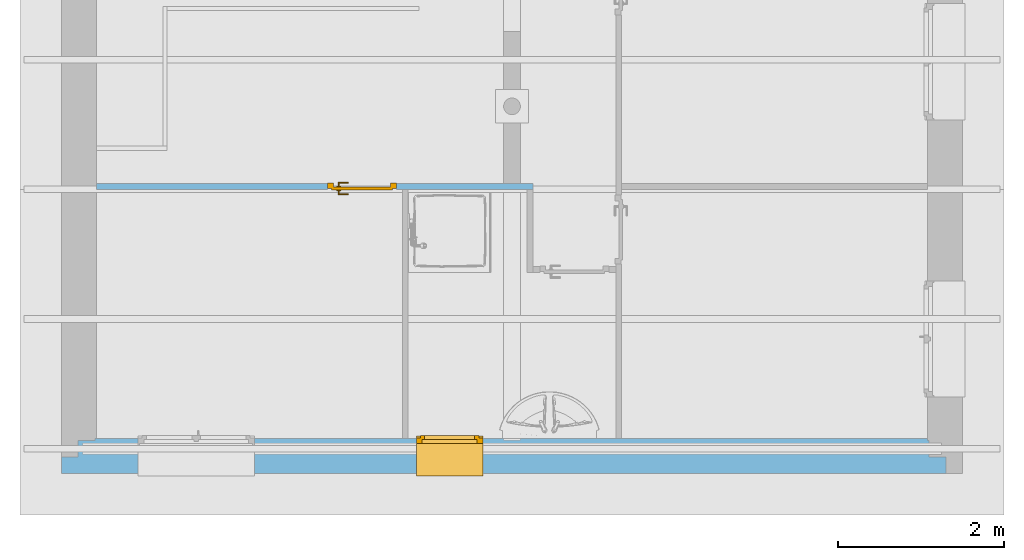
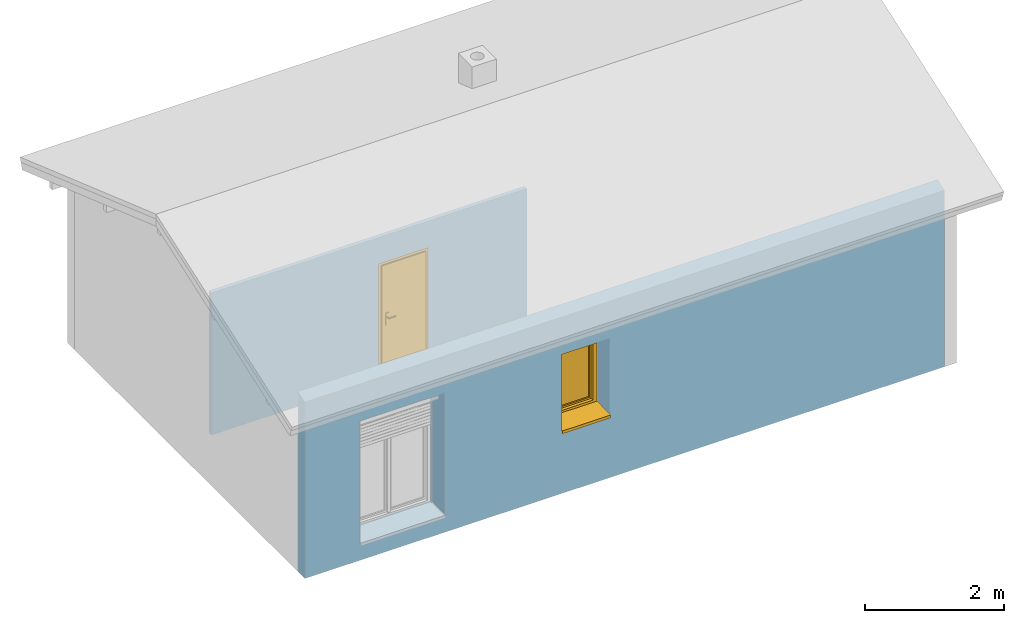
# One storey, part 4 of 7: 1 door, 1 window, 3 openings, plus 2 elements that do not belong to this part.
"""IFC4 building model written with IfcOpenShell, lengths in metres."""

from ifc_helpers import new_model, entity, si_unit, converted_unit, frame, frame_2d, origin, origin_with_axes, place, context, subcontext, project, spatial, polyline, rectangle, outline, extrude, clip, bounded_halfspace, closed_shell, open_shell, faceted_brep, surface_model, source, transform, mapped, material, layer, layer_set, layer_usage, type_object, element, fill, save


model = new_model("IFC4")

# Units and contexts
model_context = context("Model", 3, precision=1e-05, world=origin())
body_context = subcontext(model_context, "Body", "Model", "MODEL_VIEW")
ifc_project = project(units=[si_unit("LENGTHUNIT", "METRE"), si_unit("AREAUNIT", "SQUARE_METRE"), si_unit("VOLUMEUNIT", "CUBIC_METRE"), si_unit("MASSUNIT", "GRAM", prefix="KILO"), converted_unit("PLANEANGLEUNIT", "DEGREE", entity("IfcPlaneAngleMeasure", 0.0174532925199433), si_unit("PLANEANGLEUNIT", "RADIAN"), dimensions=[0, 0, 0, 0, 0, 0, 0])], contexts=[model_context])

# Building, storey
building_placement = place(None, origin())
building = spatial("IfcBuilding", under=ifc_project, at=building_placement, Name="Projet de Construction", CompositionType="ELEMENT")
storey_placement = place(building_placement, frame((0.0, 0.0, 2.8)))
storey = spatial("IfcBuildingStorey", under=building, at=storey_placement, Name="R+1", CompositionType="ELEMENT", Elevation=2.8)

# Wall, openings, window
ifc_material_1 = material()
ifc_layer_1 = layer(ifc_material_1, 0.2)
ifc_material_2 = material()
ifc_layer_2 = layer(ifc_material_2, 0.2)
ifc_material_3 = material()
ifc_layer_3 = layer(ifc_material_3, 0.0200000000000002)
ifc_layer_set_1 = layer_set([ifc_layer_1, ifc_layer_2, ifc_layer_3])
ifc_layer_usage_1 = layer_usage(ifc_layer_set_1, "AXIS2", "POSITIVE", 0.0)
wall_1_placement = place(storey_placement, frame((-7.2859375, 1.29979166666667, 0.0), z_axis=(0.0, 0.0, 1.0), x_axis=(1.0, -1.28218238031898e-16, 0.0)))
wall_1 = element("IfcWall", 1, at=wall_1_placement, inside=storey, material=ifc_layer_usage_1, context=body_context, shape_type="Clipping", body=[
    clip(clip(clip(clip(extrude(outline(polyline([(-1.74920712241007e-31, 1.36424205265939e-15), (10.64, 1.36424205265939e-15), (10.64, 0.200000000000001), (10.44, 0.200000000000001), (10.44, 0.400000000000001), (10.42, 0.400000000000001), (10.42, 0.420000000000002), (0.4, 0.420000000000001), (0.4, 0.400000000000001), (0.2, 0.400000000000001), (0.2, 0.200000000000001), (-2.56436476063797e-17, 0.200000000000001), (-1.74920712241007e-31, 1.36424205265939e-15)])), frame((1.74920712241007e-31, -1.36424205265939e-15, 0.0), z_axis=(0.0, 0.0, 1.0), x_axis=(1.0, 0.0, 0.0)), (0.0, 0.0, 1.0), 3.17000000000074), bounded_halfspace(frame((5.365, 0.355, 0.2), z_axis=(0.0, 0.0, 1.0), x_axis=(-1.28218238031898e-16, 1.0, 0.0)), True, origin_with_axes(), polyline([(10.42, 0.4), (10.42, 0.42), (0.4, 0.42), (0.399999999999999, 0.4), (0.2, 0.4), (0.2, 0.2), (10.44, 0.2), (10.44, 0.4), (10.42, 0.4)]))), bounded_halfspace(frame((5.32, 0.1, 3.13500000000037), z_axis=(-8.06799036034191e-17, 0.330350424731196, -0.943858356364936), x_axis=(-1.0, 0.0, 8.54788253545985e-17)), True, origin_with_axes(), polyline([(10.64, 0.2), (-2.56436476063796e-17, 0.2), (0.0, 0.0), (10.64, 0.0), (10.64, 0.2)]))), bounded_halfspace(frame((5.32, 0.3, 2.97000000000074), z_axis=(0.0, 0.0, -1.0), x_axis=(1.0, -5.00852492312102e-18, 0.0)), True, origin_with_axes(), polyline([(0.2, 0.2), (10.44, 0.2), (10.44, 0.4), (0.2, 0.4), (0.2, 0.2)]))), bounded_halfspace(frame((5.41, 0.41, 2.8), z_axis=(0.0, 0.0, -1.0), x_axis=(1.0, -7.93366343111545e-18, 0.0)), True, origin_with_axes(), polyline([(0.4, 0.4), (10.42, 0.4), (10.42, 0.42), (0.4, 0.42), (0.4, 0.4)]))),
])
opening_1_placement = place(wall_1_placement, frame((5.07, 0.199999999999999, 1.1), z_axis=(0.0, -1.0, 0.0), x_axis=(0.0, 0.0, 1.0)))
opening_1 = element("IfcOpeningStandardCase", 2, at=opening_1_placement, cuts=wall_1, Name="Baie de fenêtre", PredefinedType="OPENING", context=body_context, shape_type="SweptSolid", body=[
    extrude(outline(polyline([(0.0, 0.8), (1.35, 0.8), (1.35, 0.0), (0.0, 0.0), (0.0, 0.8)])), origin_with_axes(), (0.0, 0.0, 1.0), 0.2),
    extrude(outline(polyline([(0.0, 0.8), (1.35, 0.8), (1.35, 0.0), (0.0, 0.0), (0.0, 0.8)])), frame((0.0, 5.6843418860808e-17, -0.2), z_axis=(0.0, 0.0, 1.0), x_axis=(1.0, 0.0, 0.0)), (0.0, 0.0, 1.0), 0.2),
    extrude(outline(polyline([(0.0, 0.8), (1.35, 0.8), (1.35, 0.0), (0.0, 0.0), (0.0, 0.8)])), frame((0.0, 6.25277607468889e-17, -0.22), z_axis=(0.0, 0.0, 1.0), x_axis=(1.0, 0.0, 0.0)), (0.0, 0.0, 1.0), 0.0200000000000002),
])
opening_2_placement = place(wall_1_placement, frame((2.32, 0.199999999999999, 0.3), z_axis=(0.0, -1.0, 0.0), x_axis=(0.0, 0.0, 1.0)))
element("IfcOpeningStandardCase", 3, at=opening_2_placement, cuts=wall_1, Name="Baie de porte", PredefinedType="OPENING", context=body_context, shape_type="SweptSolid", body=[
    extrude(outline(polyline([(0.0, 1.4), (2.15, 1.4), (2.15, 0.0), (0.0, 0.0), (0.0, 1.4)])), origin_with_axes(), (0.0, 0.0, 1.0), 0.2),
    extrude(outline(polyline([(0.0, 1.4), (2.15, 1.4), (2.15, 0.0), (0.0, 0.0), (0.0, 1.4)])), frame((0.0, 3.24819536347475e-17, -0.2), z_axis=(0.0, 0.0, 1.0), x_axis=(1.0, 0.0, 0.0)), (0.0, 0.0, 1.0), 0.2),
    extrude(outline(polyline([(0.0, 1.4), (2.15, 1.4), (2.15, 0.0), (0.0, 0.0), (0.0, 1.4)])), frame((0.0, 3.57301489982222e-17, -0.22), z_axis=(0.0, 0.0, 1.0), x_axis=(1.0, 0.0, 0.0)), (0.0, 0.0, 1.0), 0.02),
])
ifc_material_4 = material()
window_type = type_object("IfcWindowType", Name="1 vantail blanc", ParameterTakesPrecedence=False, PartitioningType="SINGLE_PANEL", PredefinedType="WINDOW")
shared_shape_1 = source(origin_with_axes(), body_context, "Body", "SurfaceModel", [
    surface_model("IfcShellBasedSurfaceModel", [(0.8, -0.37, 0.0), (0.8, -0.37, -0.03), (0.8, -0.39, -0.03), (0.8, -0.39, 0.02), (0.8, 0.0, 0.03), (0.8, 0.0, 0.0), (0.0, 2.27373675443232e-16, 0.0), (0.0, 2.27373675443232e-16, 0.03), (0.0, -0.39, 0.02), (0.0, -0.39, -0.03), (0.0, -0.37, -0.03), (0.0, -0.37, 0.0)], [closed_shell([[[0, 1, 2, 3, 4, 5]], [[6, 7, 8, 9, 10, 11]], [[5, 6, 11, 0]], [[4, 7, 6, 5]], [[3, 8, 7, 4]], [[2, 9, 8, 3]], [[1, 10, 9, 2]], [[0, 11, 10, 1]]], orient=[[False], [False], [False], [False], [False], [False], [False], [False]])]),
    surface_model("IfcShellBasedSurfaceModel", [(0.8, 0.09, 0.0), (0.8, 0.04, 0.0), (0.8, 0.04, 0.03), (0.8, 0.09, 0.03), (0.0, 0.0400000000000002, 0.0), (0.0, 0.0900000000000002, 0.0), (0.0, 0.0900000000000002, 0.03), (0.0, 0.0400000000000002, 0.03)], [closed_shell([[[0, 1, 2, 3]], [[4, 5, 6, 7]], [[1, 0, 5, 4]], [[2, 1, 4, 7]], [[3, 2, 7, 6]], [[0, 3, 6, 5]]], orient=[[False], [False], [False], [False], [False], [False]])]),
    surface_model("IfcShellBasedSurfaceModel", [(0.8, 0.0700000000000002, 1.35), (0.73, 0.0700000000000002, 1.35), (0.73, 0.07, 0.0), (0.8, 0.07, 0.0), (0.8, 0.0, 0.0), (0.73, 0.0, 0.0), (0.73, 2.27373675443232e-16, 1.35), (0.8, 2.27373675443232e-16, 1.35)], [closed_shell([[[0, 1, 2, 3]], [[4, 5, 6, 7]], [[3, 4, 7, 0]], [[2, 5, 4, 3]], [[1, 6, 5, 2]], [[0, 7, 6, 1]]], orient=[[False], [False], [False], [False], [False], [False]])]),
    surface_model("IfcShellBasedSurfaceModel", [(0.07, 0.0700000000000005, 1.35), (0.0, 0.0700000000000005, 1.35), (0.0, 0.0700000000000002, 0.0), (0.07, 0.0700000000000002, 0.0), (0.07, 2.27373675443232e-16, 0.0), (0.0, 2.27373675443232e-16, 0.0), (0.0, 4.54747350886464e-16, 1.35), (0.07, 4.54747350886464e-16, 1.35)], [closed_shell([[[0, 1, 2, 3]], [[4, 5, 6, 7]], [[3, 4, 7, 0]], [[2, 5, 4, 3]], [[1, 6, 5, 2]], [[0, 7, 6, 1]]], orient=[[False], [False], [False], [False], [False], [False]])]),
    surface_model("IfcShellBasedSurfaceModel", [(0.73, 0.07, 0.07), (0.07, 0.0700000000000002, 0.07), (0.07, 0.0700000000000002, 0.0), (0.73, 0.07, 0.0), (0.73, 0.0, 0.0), (0.07, 2.27373675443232e-16, 0.0), (0.07, 2.27373675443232e-16, 0.07), (0.73, 0.0, 0.07)], [closed_shell([[[0, 1, 2, 3]], [[4, 5, 6, 7]], [[3, 4, 7, 0]], [[2, 5, 4, 3]], [[1, 6, 5, 2]], [[0, 7, 6, 1]]], orient=[[False], [False], [False], [False], [False], [False]])]),
    surface_model("IfcShellBasedSurfaceModel", [(0.73, 0.0700000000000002, 1.35), (0.07, 0.0700000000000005, 1.35), (0.07, 0.0700000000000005, 1.28), (0.73, 0.0700000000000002, 1.28), (0.73, 2.27373675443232e-16, 1.28), (0.07, 2.27373675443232e-16, 1.28), (0.07, 4.54747350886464e-16, 1.35), (0.73, 2.27373675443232e-16, 1.35)], [closed_shell([[[0, 1, 2, 3]], [[4, 5, 6, 7]], [[3, 4, 7, 0]], [[2, 5, 4, 3]], [[1, 6, 5, 2]], [[0, 7, 6, 1]]], orient=[[False], [False], [False], [False], [False], [False]])]),
    surface_model("IfcShellBasedSurfaceModel", [(0.75, 0.1, 1.3), (0.7, 0.1, 1.3), (0.7, 0.1, 0.05), (0.75, 0.1, 0.05), (0.75, 0.05, 0.05), (0.7, 0.05, 0.05), (0.7, 0.0500000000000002, 1.3), (0.75, 0.0500000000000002, 1.3)], [closed_shell([[[0, 1, 2, 3]], [[4, 5, 6, 7]], [[3, 4, 7, 0]], [[2, 5, 4, 3]], [[1, 6, 5, 2]], [[0, 7, 6, 1]]], orient=[[False], [False], [False], [False], [False], [False]])]),
    surface_model("IfcShellBasedSurfaceModel", [(0.1, 0.1, 1.3), (0.05, 0.1, 1.3), (0.05, 0.1, 0.05), (0.1, 0.1, 0.05), (0.1, 0.0500000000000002, 0.05), (0.05, 0.0500000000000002, 0.05), (0.05, 0.0500000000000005, 1.3), (0.1, 0.0500000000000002, 1.3)], [closed_shell([[[0, 1, 2, 3]], [[4, 5, 6, 7]], [[3, 4, 7, 0]], [[2, 5, 4, 3]], [[1, 6, 5, 2]], [[0, 7, 6, 1]]], orient=[[False], [False], [False], [False], [False], [False]])]),
    surface_model("IfcShellBasedSurfaceModel", [(0.7, 0.1, 0.1), (0.1, 0.1, 0.1), (0.1, 0.1, 0.05), (0.7, 0.1, 0.05), (0.7, 0.05, 0.05), (0.1, 0.0500000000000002, 0.05), (0.1, 0.0500000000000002, 0.1), (0.7, 0.05, 0.1)], [closed_shell([[[0, 1, 2, 3]], [[4, 5, 6, 7]], [[3, 4, 7, 0]], [[2, 5, 4, 3]], [[1, 6, 5, 2]], [[0, 7, 6, 1]]], orient=[[False], [False], [False], [False], [False], [False]])]),
    surface_model("IfcShellBasedSurfaceModel", [(0.7, 0.1, 1.3), (0.1, 0.1, 1.3), (0.1, 0.1, 1.25), (0.7, 0.1, 1.25), (0.7, 0.0500000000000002, 1.25), (0.1, 0.0500000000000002, 1.25), (0.1, 0.0500000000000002, 1.3), (0.7, 0.0500000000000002, 1.3)], [closed_shell([[[0, 1, 2, 3]], [[4, 5, 6, 7]], [[3, 4, 7, 0]], [[2, 5, 4, 3]], [[1, 6, 5, 2]], [[0, 7, 6, 1]]], orient=[[False], [False], [False], [False], [False], [False]])]),
    surface_model("IfcShellBasedSurfaceModel", [(0.7375, 0.1, 0.67), (0.7375, 0.1, 0.63), (0.7125, 0.1, 0.63), (0.7125, 0.1, 0.67), (0.7375, 0.11, 0.63), (0.7375, 0.11, 0.67), (0.7125, 0.11, 0.67), (0.7125, 0.11, 0.63)], [closed_shell([[[0, 1, 2, 3]], [[4, 5, 6, 7]], [[1, 0, 5, 4]], [[2, 1, 4, 7]], [[3, 2, 7, 6]], [[0, 3, 6, 5]]], orient=[[False], [False], [False], [False], [False], [False]])]),
    surface_model("IfcShellBasedSurfaceModel", [(0.715, 0.11, 0.65), (0.716339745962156, 0.11, 0.655), (0.72, 0.11, 0.658660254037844), (0.725, 0.11, 0.66), (0.73, 0.11, 0.658660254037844), (0.733660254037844, 0.11, 0.655), (0.735, 0.11, 0.65), (0.733660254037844, 0.11, 0.645), (0.73, 0.11, 0.641339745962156), (0.725, 0.11, 0.64), (0.72, 0.11, 0.641339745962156), (0.716339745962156, 0.11, 0.645), (0.715, 0.15, 0.65), (0.716339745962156, 0.155, 0.655), (0.72, 0.158660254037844, 0.658660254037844), (0.725, 0.16, 0.66), (0.73, 0.158660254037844, 0.658660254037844), (0.733660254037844, 0.155, 0.655), (0.735, 0.15, 0.65), (0.733660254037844, 0.145, 0.645), (0.73, 0.141339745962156, 0.641339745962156), (0.725, 0.14, 0.64), (0.72, 0.141339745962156, 0.641339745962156), (0.716339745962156, 0.145, 0.645), (0.715, 0.15, 0.535), (0.716339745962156, 0.145, 0.535), (0.72, 0.141339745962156, 0.535), (0.725, 0.14, 0.535), (0.73, 0.141339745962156, 0.535), (0.733660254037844, 0.145, 0.535), (0.735, 0.15, 0.535), (0.733660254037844, 0.155, 0.535), (0.73, 0.158660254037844, 0.535), (0.725, 0.16, 0.535), (0.72, 0.158660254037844, 0.535), (0.716339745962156, 0.155, 0.535)], [closed_shell([[[0, 1, 2, 3, 4, 5, 6, 7, 8, 9, 10, 11]], [[0, 12, 13, 1]], [[1, 13, 14, 2]], [[2, 14, 15, 3]], [[3, 15, 16, 4]], [[4, 16, 17, 5]], [[5, 17, 18, 6]], [[6, 18, 19, 7]], [[7, 19, 20, 8]], [[8, 20, 21, 9]], [[9, 21, 22, 10]], [[10, 22, 23, 11]], [[11, 23, 12, 0]], [[24, 25, 26, 27, 28, 29, 30, 31, 32, 33, 34, 35]], [[12, 24, 35, 13]], [[13, 35, 34, 14]], [[14, 34, 33, 15]], [[15, 33, 32, 16]], [[16, 32, 31, 17]], [[17, 31, 30, 18]], [[18, 30, 29, 19]], [[19, 29, 28, 20]], [[20, 28, 27, 21]], [[21, 27, 26, 22]], [[22, 26, 25, 23]], [[23, 25, 24, 12]]], orient=[[False], [False], [False], [False], [False], [False], [False], [False], [False], [False], [False], [False], [False], [False], [False], [False], [False], [False], [False], [False], [False], [False], [False], [False], [False], [False]])]),
    surface_model("IfcShellBasedSurfaceModel", [(0.7, 0.075, 0.1), (0.7, 0.0750000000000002, 1.25), (0.1, 0.0750000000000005, 1.25), (0.1, 0.0750000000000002, 0.1)], [open_shell([[[0, 1, 2, 3]]], orient=[[False]])]),
])
window_placement = place(opening_1_placement, frame((0.0, 0.8, -0.16), z_axis=(1.0, 0.0, 0.0), x_axis=(0.0, -1.0, -1.28218238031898e-16)))
window = element("IfcWindow", 4, at=window_placement, inside=storey, type_object=window_type, material=ifc_material_4, Name="1 vantail blanc", OverallHeight=1.35, OverallWidth=0.8, context=body_context, shape_type="MappedRepresentation", body=[
    mapped(shared_shape_1, transform((0.0, 0.0, 0.0), x_axis=(1.0, 0.0, 0.0), y_axis=(0.0, 1.0, 0.0), z_axis=(0.0, 0.0, 1.0), scale=1.0)),
])
fill(opening_1, window)

# Wall, opening, door
ifc_material_5 = material()
ifc_layer_4 = layer(ifc_material_5, 0.07)
ifc_layer_set_2 = layer_set([ifc_layer_4])
ifc_layer_usage_2 = layer_usage(ifc_layer_set_2, "AXIS2", "POSITIVE", 0.0)
wall_2_placement = place(storey_placement, frame((-1.6159375, 4.78979166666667, 0.3), z_axis=(0.0, 0.0, 1.0), x_axis=(-1.0, 0.0, 0.0)))
wall_2 = element("IfcWall", 5, at=wall_2_placement, inside=storey, material=ifc_layer_usage_2, context=body_context, shape_type="SweptSolid", body=[
    extrude(rectangle(XDim=5.25, YDim=0.07, at=frame_2d((2.625, 0.035), x_axis=(1.0, 0.0))), origin_with_axes(), (0.0, 0.0, 1.0), 2.5),
])
opening_3_placement = place(wall_2_placement, frame((1.64, 0.0, 0.0), z_axis=(0.0, 1.0, 0.0), x_axis=(0.0, 0.0, 1.0)))
opening_3 = element("IfcOpeningStandardCase", 6, at=opening_3_placement, cuts=wall_2, Name="Baie de porte", PredefinedType="OPENING", context=body_context, shape_type="SweptSolid", body=[
    extrude(outline(polyline([(0.0, 0.83), (2.04, 0.83), (2.04, 0.0), (0.0, 0.0), (0.0, 0.83)])), origin_with_axes(), (0.0, 0.0, 1.0), 0.07),
])
ifc_material_6 = material()
door_type = type_object("IfcDoorType", Name="1 vantail sol fini, en bois", OperationType="SINGLE_SWING_RIGHT", ParameterTakesPrecedence=False, PredefinedType="DOOR")
shared_shape_2 = source(origin_with_axes(), body_context, "Body", "Brep", [
    faceted_brep([(0.83, 0.0699999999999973, 2.04), (0.76, 0.0699999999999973, 2.04), (0.76, 0.0699999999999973, 0.0), (0.83, 0.0699999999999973, 0.0), (0.83, -2.72848410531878e-15, 0.0), (0.76, -2.72848410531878e-15, 0.0), (0.76, -2.72848410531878e-15, 2.04), (0.83, -2.72848410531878e-15, 2.04)], [[[0, 1, 2, 3]], [[4, 5, 6, 7]], [[3, 4, 7, 0]], [[2, 5, 4, 3]], [[1, 6, 5, 2]], [[0, 7, 6, 1]]], orient=[[False], [False], [False], [False], [False], [False]]),
    faceted_brep([(0.07, 0.0699999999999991, 2.04), (0.0, 0.0699999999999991, 2.04), (0.0, 0.0699999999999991, 0.0), (0.07, 0.0699999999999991, 0.0), (0.07, -9.09494701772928e-16, 0.0), (0.0, -9.09494701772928e-16, 0.0), (0.0, -9.09494701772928e-16, 2.04), (0.07, -9.09494701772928e-16, 2.04)], [[[0, 1, 2, 3]], [[4, 5, 6, 7]], [[3, 4, 7, 0]], [[2, 5, 4, 3]], [[1, 6, 5, 2]], [[0, 7, 6, 1]]], orient=[[False], [False], [False], [False], [False], [False]]),
    faceted_brep([(0.76, 0.0699999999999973, 2.04), (0.07, 0.0699999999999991, 2.04), (0.07, 0.0699999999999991, 1.97), (0.76, 0.0699999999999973, 1.97), (0.76, -2.72848410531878e-15, 1.97), (0.07, -9.09494701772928e-16, 1.97), (0.07, -9.09494701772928e-16, 2.04), (0.76, -2.72848410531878e-15, 2.04)], [[[0, 1, 2, 3]], [[4, 5, 6, 7]], [[3, 4, 7, 0]], [[2, 5, 4, 3]], [[1, 6, 5, 2]], [[0, 7, 6, 1]]], orient=[[False], [False], [False], [False], [False], [False]]),
    faceted_brep([(0.78, 0.0899999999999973, 1.99), (0.05, 0.0899999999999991, 1.99), (0.05, 0.0899999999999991, 0.021), (0.78, 0.0899999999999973, 0.021), (0.78, 0.0499999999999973, 0.021), (0.05, 0.0499999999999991, 0.021), (0.05, 0.0499999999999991, 1.99), (0.78, 0.0499999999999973, 1.99)], [[[0, 1, 2, 3]], [[4, 5, 6, 7]], [[3, 4, 7, 0]], [[2, 5, 4, 3]], [[1, 6, 5, 2]], [[0, 7, 6, 1]]], orient=[[False], [False], [False], [False], [False], [False]]),
    faceted_brep([(0.72, 0.0499999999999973, 1.146), (0.67, 0.0499999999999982, 1.146), (0.67, 0.0499999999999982, 0.931), (0.72, 0.0499999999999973, 0.931), (0.72, 0.0399999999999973, 0.931), (0.67, 0.0399999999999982, 0.931), (0.67, 0.0399999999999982, 1.146), (0.72, 0.0399999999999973, 1.146)], [[[0, 1, 2, 3]], [[4, 5, 6, 7]], [[3, 4, 7, 0]], [[2, 5, 4, 3]], [[1, 6, 5, 2]], [[0, 7, 6, 1]]], orient=[[False], [False], [False], [False], [False], [False]]),
    faceted_brep([(0.695, 0.0399999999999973, 1.081), (0.69, 0.0399999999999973, 1.07966025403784), (0.686339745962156, 0.0399999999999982, 1.076), (0.685, 0.0399999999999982, 1.071), (0.686339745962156, 0.0399999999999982, 1.066), (0.69, 0.0399999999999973, 1.06233974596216), (0.695, 0.0399999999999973, 1.061), (0.7, 0.0399999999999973, 1.06233974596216), (0.703660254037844, 0.0399999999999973, 1.066), (0.705, 0.0399999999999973, 1.071), (0.703660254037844, 0.0399999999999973, 1.076), (0.7, 0.0399999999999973, 1.07966025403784), (0.7, -0.00500000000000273, 1.07966025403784), (0.695, -2.72848410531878e-15, 1.081), (0.703660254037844, -0.00866025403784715, 1.076), (0.705, -0.0100000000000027, 1.071), (0.703660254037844, -0.00866025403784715, 1.066), (0.7, -0.00500000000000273, 1.06233974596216), (0.695, -2.72848410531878e-15, 1.061), (0.69, 0.00499999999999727, 1.06233974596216), (0.686339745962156, 0.00866025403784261, 1.066), (0.685, 0.00999999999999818, 1.071), (0.686339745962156, 0.00866025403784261, 1.076), (0.69, 0.00499999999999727, 1.07966025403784), (0.58, -1.81898940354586e-15, 1.081), (0.58, -0.00500000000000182, 1.07966025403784), (0.58, -0.00866025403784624, 1.076), (0.58, -0.0100000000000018, 1.071), (0.58, -0.00866025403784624, 1.066), (0.58, -0.00500000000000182, 1.06233974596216), (0.58, -1.81898940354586e-15, 1.061), (0.58, 0.00499999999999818, 1.06233974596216), (0.58, 0.00866025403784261, 1.066), (0.58, 0.00999999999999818, 1.071), (0.58, 0.00866025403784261, 1.076), (0.58, 0.00499999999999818, 1.07966025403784)], [[[0, 1, 2, 3, 4, 5, 6, 7, 8, 9, 10, 11]], [[0, 11, 12, 13]], [[11, 10, 14, 12]], [[10, 9, 15, 14]], [[9, 8, 16, 15]], [[8, 7, 17, 16]], [[7, 6, 18, 17]], [[6, 5, 19, 18]], [[5, 4, 20, 19]], [[4, 3, 21, 20]], [[3, 2, 22, 21]], [[2, 1, 23, 22]], [[1, 0, 13, 23]], [[24, 25, 26, 27, 28, 29, 30, 31, 32, 33, 34, 35]], [[13, 12, 25, 24]], [[12, 14, 26, 25]], [[14, 15, 27, 26]], [[15, 16, 28, 27]], [[16, 17, 29, 28]], [[17, 18, 30, 29]], [[18, 19, 31, 30]], [[19, 20, 32, 31]], [[20, 21, 33, 32]], [[21, 22, 34, 33]], [[22, 23, 35, 34]], [[23, 13, 24, 35]]], orient=[[False], [False], [False], [False], [False], [False], [False], [False], [False], [False], [False], [False], [False], [False], [False], [False], [False], [False], [False], [False], [False], [False], [False], [False], [False], [False]]),
    faceted_brep([(0.72, 0.0899999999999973, 1.146), (0.72, 0.0899999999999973, 0.931), (0.67, 0.0899999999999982, 0.931), (0.67, 0.0899999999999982, 1.146), (0.72, 0.0999999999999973, 0.931), (0.72, 0.0999999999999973, 1.146), (0.67, 0.0999999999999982, 1.146), (0.67, 0.0999999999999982, 0.931)], [[[0, 1, 2, 3]], [[4, 5, 6, 7]], [[1, 0, 5, 4]], [[2, 1, 4, 7]], [[3, 2, 7, 6]], [[0, 3, 6, 5]]], orient=[[False], [False], [False], [False], [False], [False]]),
    faceted_brep([(0.695, 0.0999999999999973, 1.081), (0.7, 0.0999999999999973, 1.07966025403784), (0.703660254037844, 0.0999999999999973, 1.076), (0.705, 0.0999999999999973, 1.071), (0.703660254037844, 0.0999999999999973, 1.066), (0.7, 0.0999999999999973, 1.06233974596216), (0.695, 0.0999999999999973, 1.061), (0.69, 0.0999999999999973, 1.06233974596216), (0.686339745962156, 0.0999999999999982, 1.066), (0.685, 0.0999999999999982, 1.071), (0.686339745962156, 0.0999999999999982, 1.076), (0.69, 0.0999999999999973, 1.07966025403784), (0.695000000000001, 0.139999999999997, 1.081), (0.700000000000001, 0.144999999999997, 1.07966025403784), (0.703660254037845, 0.148660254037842, 1.076), (0.705000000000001, 0.149999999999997, 1.071), (0.703660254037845, 0.148660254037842, 1.066), (0.700000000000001, 0.144999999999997, 1.06233974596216), (0.695000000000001, 0.139999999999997, 1.061), (0.690000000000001, 0.134999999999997, 1.06233974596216), (0.686339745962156, 0.131339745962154, 1.066), (0.685, 0.129999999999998, 1.071), (0.686339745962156, 0.131339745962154, 1.076), (0.690000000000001, 0.134999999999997, 1.07966025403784), (0.580000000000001, 0.139999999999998, 1.081), (0.580000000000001, 0.134999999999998, 1.07966025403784), (0.580000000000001, 0.131339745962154, 1.076), (0.58, 0.129999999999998, 1.071), (0.580000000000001, 0.131339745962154, 1.066), (0.580000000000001, 0.134999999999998, 1.06233974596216), (0.580000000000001, 0.139999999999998, 1.061), (0.580000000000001, 0.144999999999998, 1.06233974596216), (0.580000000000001, 0.148660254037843, 1.066), (0.580000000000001, 0.149999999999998, 1.071), (0.580000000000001, 0.148660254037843, 1.076), (0.580000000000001, 0.144999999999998, 1.07966025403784)], [[[0, 1, 2, 3, 4, 5, 6, 7, 8, 9, 10, 11]], [[0, 12, 13, 1]], [[1, 13, 14, 2]], [[2, 14, 15, 3]], [[3, 15, 16, 4]], [[4, 16, 17, 5]], [[5, 17, 18, 6]], [[6, 18, 19, 7]], [[7, 19, 20, 8]], [[8, 20, 21, 9]], [[9, 21, 22, 10]], [[10, 22, 23, 11]], [[11, 23, 12, 0]], [[24, 25, 26, 27, 28, 29, 30, 31, 32, 33, 34, 35]], [[12, 24, 35, 13]], [[13, 35, 34, 14]], [[14, 34, 33, 15]], [[15, 33, 32, 16]], [[16, 32, 31, 17]], [[17, 31, 30, 18]], [[18, 30, 29, 19]], [[19, 29, 28, 20]], [[20, 28, 27, 21]], [[21, 27, 26, 22]], [[22, 26, 25, 23]], [[23, 25, 24, 12]]], orient=[[False], [False], [False], [False], [False], [False], [False], [False], [False], [False], [False], [False], [False], [False], [False], [False], [False], [False], [False], [False], [False], [False], [False], [False], [False], [False]]),
])
door_placement = place(opening_3_placement, frame((0.0, 0.0, -0.01), z_axis=(1.0, 0.0, 0.0), x_axis=(0.0, 1.0, 2.19155349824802e-15)))
door = element("IfcDoor", 7, at=door_placement, inside=storey, type_object=door_type, material=ifc_material_6, Name="1 vantail sol fini, en bois", OverallHeight=2.04, OverallWidth=0.83, context=body_context, shape_type="MappedRepresentation", body=[
    mapped(shared_shape_2, transform((0.0, 0.0, 0.0), x_axis=(1.0, 0.0, 0.0), y_axis=(0.0, 1.0, 0.0), z_axis=(0.0, 0.0, 1.0), scale=1.0)),
])
fill(opening_3, door)

save(model, "model.ifc")
